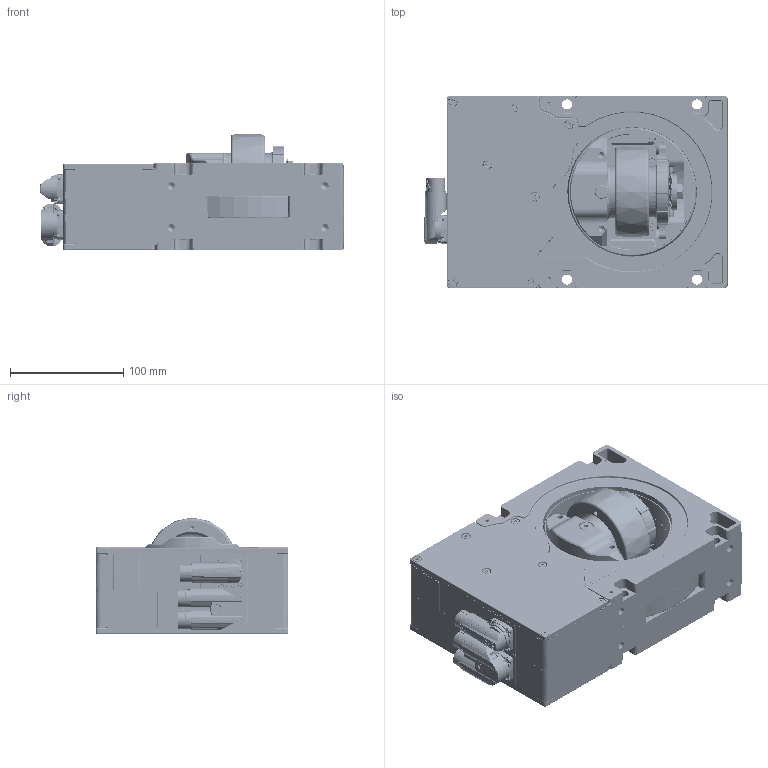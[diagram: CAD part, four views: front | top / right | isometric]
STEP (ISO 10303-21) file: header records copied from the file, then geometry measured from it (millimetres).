
FILE_DESCRIPTION(/* description */ (''),/* implementation_level */ '2;1');
FILE_NAME(/* name */ 'C:\Users\silberhornr\Desktop\8315120052_ipt_400_-.stp',/* time_stamp */ '2023-04-05T16:10:10+02:00',/* author */ ('silberhornr'),/* organization */ (''),/* preprocessor_version */ 'ST-DEVELOPER v18.1',/* originating_system */ 'Autodesk Inventor 2021',/* authorisation */ '');
FILE_SCHEMA (('AUTOMOTIVE_DESIGN { 1 0 10303 214 3 1 1 }'));
Products named in the file (1): 8315120052
Bounding box: 269.02 x 170 x 103.35 mm (x, y, z)
Volume: 2981721.8 mm3; surface area: 294451.5 mm2
Topology: 7 solids, 104 shells, 13505 faces, 33676 edges, 20710 vertices
Faces by surface type: plane 4592, bspline 3875, cylinder 2704, torus 1171, cone 795, sphere 368
Full cylindrical faces by diameter (mm): 0.3 x36, 1 x39, 1.2 x6, 1.5 x4, 1.8 x4, 1.9 x1, 2 x6, 2.013 x4, 2.05 x1, 2.3 x4, 2.459 x1, 2.5 x10, 2.6 x8, 2.7 x10, 2.8 x2, 3 x12, 3.05 x2, 3.06 x1, 3.1 x5, 3.2 x2, 3.242 x8, 3.4 x11, 3.5 x1, 3.55 x2, 4 x31, 4.2 x4, 4.5 x18, 4.7 x2, 4.8 x2, 4.917 x4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
Entity records: 653118 total; most frequent: CARTESIAN_POINT 334758, ORIENTED_EDGE 66886, DIRECTION 57777, EDGE_CURVE 33443, AXIS2_PLACEMENT_3D 21499, VERTEX_POINT 20712, LINE 14779, VECTOR 14779
